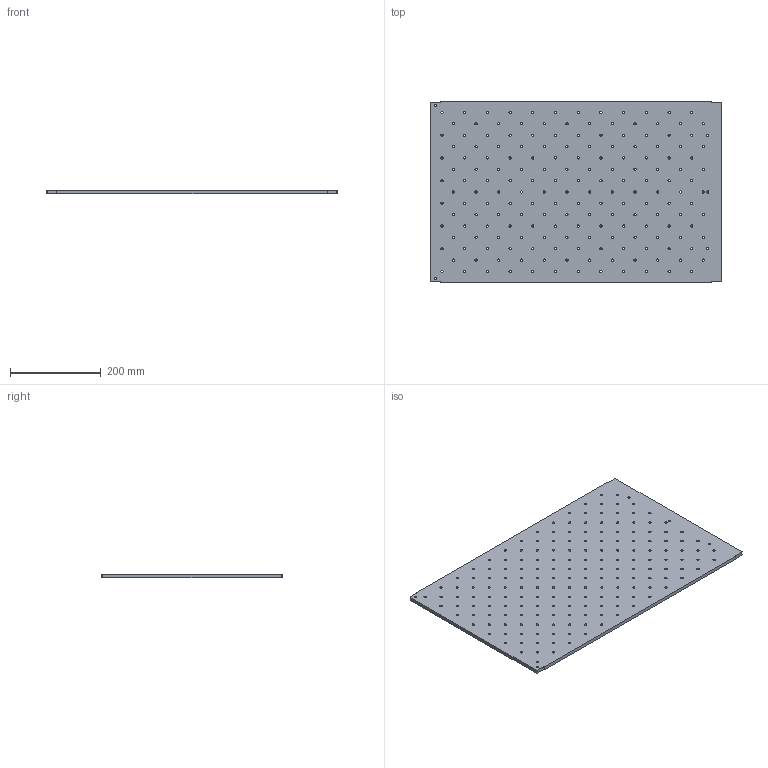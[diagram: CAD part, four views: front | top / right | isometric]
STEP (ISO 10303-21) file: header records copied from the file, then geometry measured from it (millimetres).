
FILE_DESCRIPTION(('FreeCAD Model'),'2;1');
FILE_NAME('Open CASCADE Shape Model','2024-11-21T12:32:39',(''),(''), 'Open CASCADE STEP processor 7.8','FreeCAD','Unknown');
FILE_SCHEMA(('AUTOMOTIVE_DESIGN { 1 0 10303 214 1 1 1 1 }'));
Length unit declared in the file: millimetre
Products named in the file (1): BASEPLATE-v3
Bounding box: 640 x 400 x 8 mm (x, y, z)
Volume: 2017504.8 mm3; surface area: 544236.5 mm2
Topology: 1 solids, 1 shells, 203 faces, 603 edges, 402 vertices
Faces by surface type: cylinder 189, plane 14
Full cylindrical faces by diameter (mm): 5 x185
Entity records: 15650 total; most frequent: DIRECTION 2591, CARTESIAN_POINT 2439, ORIENTED_EDGE 1206, PCURVE 1206, DEFINITIONAL_REPRESENTATION 1206, LINE 1053, VECTOR 1053, CIRCLE 752
